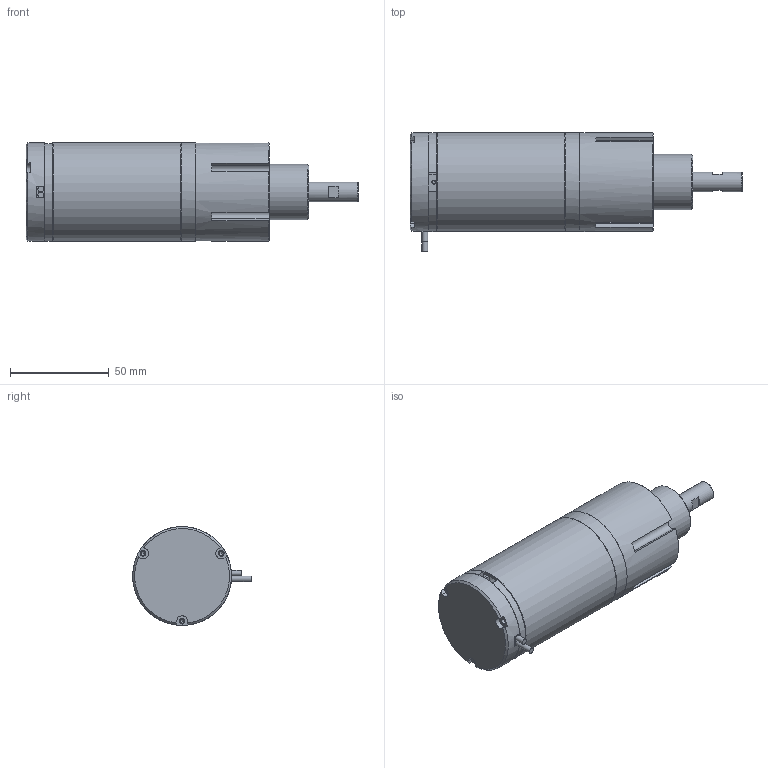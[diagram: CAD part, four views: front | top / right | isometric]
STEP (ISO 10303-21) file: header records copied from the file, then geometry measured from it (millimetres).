
FILE_DESCRIPTION((''),'2;1');
FILE_NAME('D:\SMAC-CAD\CBL50\CBL50-010\SINGLE BOBBIN\ASSY\CBL50-010-5 STP.stp','2014-07-31T13:43:20',('mark'),(''),'Autodesk Inventor 2008','Autodesk Inventor 2008','');
FILE_SCHEMA(('AUTOMOTIVE_DESIGN { 1 0 10303 214 1 1 1 1 }'));
Length unit declared in the file: millimetre
Products named in the file (10): CBL50-010-5 STP; 18572-01_A; SUDO BEARING; 21565-10; 14717-28_A; 14717-54_A; 14717-55_A; CBL50-CABLE; 23633-50_A; CBL35CABLE-GRO
Assembly tree (9 placements, depth 3):
  CBL50-010-5 STP
    18572-01_A
    SUDO BEARING
    21565-10
    14717-28_A
    14717-54_A
    14717-55_A
    CBL50-CABLE
      23633-50_A
      CBL35CABLE-GRO
Bounding box: 168 x 60 x 50 mm (x, y, z)
Volume: 168286 mm3; surface area: 69319.9 mm2
Topology: 9 solids, 9 shells, 284 faces, 785 edges, 516 vertices
Faces by surface type: plane 110, bspline 97, cylinder 56, cone 21
Full cylindrical faces by diameter (mm): 2.9 x2, 8 x1, 10 x2, 12 x1, 19 x3, 20 x1, 25 x1, 28 x1, 50 x4
Entity records: 10127 total; most frequent: CARTESIAN_POINT 3579, ORIENTED_EDGE 1252, DIRECTION 1233, EDGE_CURVE 626, AXIS2_PLACEMENT_3D 471, VERTEX_POINT 450, EDGE_LOOP 416, VECTOR 291
